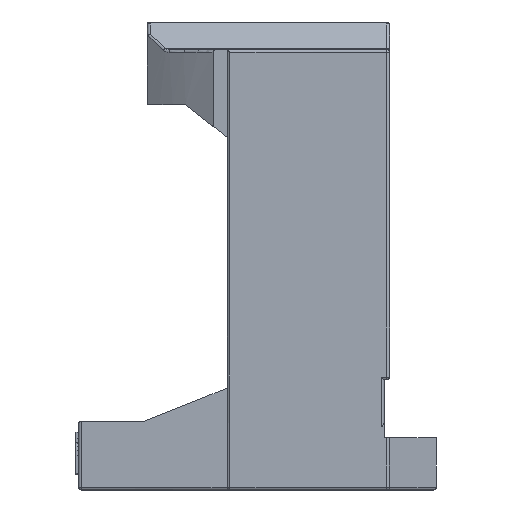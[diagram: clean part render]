
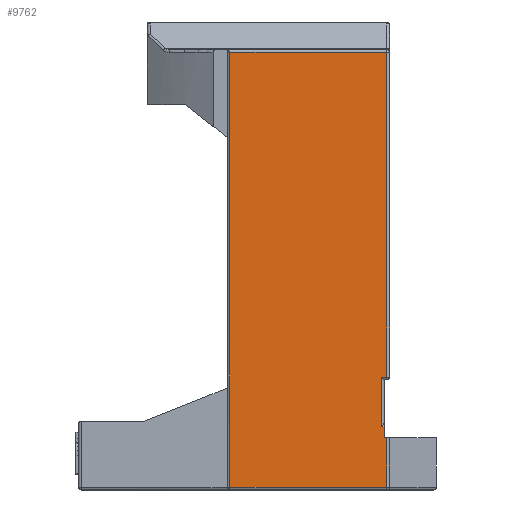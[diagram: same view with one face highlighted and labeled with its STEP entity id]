
A CAD part, left-side view. The second image highlights one B-rep face of the part: STEP entity #9762.
In plain terms, the highlighted planar face has unit normal (-1, 0, 0).
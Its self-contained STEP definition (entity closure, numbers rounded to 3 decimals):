
#2306=DIRECTION('',(0.,-1.,0.));
#2307=VECTOR('',#2306,57.);
#2308=CARTESIAN_POINT('',(-75.,10.,159.));
#2309=LINE('',#2308,#2307);
#2323=DIRECTION('',(0.,0.,1.));
#2324=VECTOR('',#2323,158.);
#2325=CARTESIAN_POINT('',(-75.,10.,1.));
#2326=LINE('',#2325,#2324);
#2386=DIRECTION('',(0.,1.,0.));
#2387=VECTOR('',#2386,57.);
#2388=CARTESIAN_POINT('',(-75.,-47.,1.));
#2389=LINE('',#2388,#2387);
#3200=DIRECTION('',(0.,0.,-1.));
#3201=VECTOR('',#3200,18.);
#3202=CARTESIAN_POINT('',(-75.,-47.,19.));
#3203=LINE('',#3202,#3201);
#3204=DIRECTION('',(0.,1.,0.));
#3205=VECTOR('',#3204,1.);
#3206=CARTESIAN_POINT('',(-75.,-47.,19.));
#3207=LINE('',#3206,#3205);
#3208=DIRECTION('',(0.,0.,1.));
#3209=VECTOR('',#3208,4.);
#3210=CARTESIAN_POINT('',(-75.,-46.,19.));
#3211=LINE('',#3210,#3209);
#3212=DIRECTION('',(0.,0.,-1.));
#3213=VECTOR('',#3212,118.);
#3214=CARTESIAN_POINT('',(-75.,-47.,159.));
#3215=LINE('',#3214,#3213);
#3235=DIRECTION('',(0.,1.,0.));
#3236=VECTOR('',#3235,2.);
#3237=CARTESIAN_POINT('',(-75.,-47.,41.));
#3238=LINE('',#3237,#3236);
#3247=DIRECTION('',(0.,0.,-1.));
#3248=VECTOR('',#3247,18.);
#3249=CARTESIAN_POINT('',(-75.,-45.,41.));
#3250=LINE('',#3249,#3248);
#3265=DIRECTION('',(0.,-1.,0.));
#3266=VECTOR('',#3265,1.);
#3267=CARTESIAN_POINT('',(-75.,-45.,23.));
#3268=LINE('',#3267,#3266);
#4648=CARTESIAN_POINT('',(-75.,-47.,159.));
#4649=CARTESIAN_POINT('',(-75.,-47.,41.));
#4650=VERTEX_POINT('',#4648);
#4651=VERTEX_POINT('',#4649);
#4652=CARTESIAN_POINT('',(-75.,10.,159.));
#4653=VERTEX_POINT('',#4652);
#4654=CARTESIAN_POINT('',(-75.,10.,1.));
#4655=VERTEX_POINT('',#4654);
#4656=CARTESIAN_POINT('',(-75.,-47.,1.));
#4657=VERTEX_POINT('',#4656);
#4658=CARTESIAN_POINT('',(-75.,-45.,41.));
#4659=CARTESIAN_POINT('',(-75.,-45.,23.));
#4660=VERTEX_POINT('',#4658);
#4661=VERTEX_POINT('',#4659);
#5535=CARTESIAN_POINT('',(-75.,-47.,19.));
#5536=CARTESIAN_POINT('',(-75.,-46.,19.));
#5537=VERTEX_POINT('',#5535);
#5538=VERTEX_POINT('',#5536);
#5539=CARTESIAN_POINT('',(-75.,-46.,23.));
#5540=VERTEX_POINT('',#5539);
#9741=CARTESIAN_POINT('',(-75.,72.5,25.));
#9742=DIRECTION('',(1.,0.,0.));
#9743=DIRECTION('',(0.,-1.,0.));
#9744=AXIS2_PLACEMENT_3D('',#9741,#9742,#9743);
#9745=PLANE('',#9744);
#9746=ORIENTED_EDGE('',*,*,#8654,.F.);
#9747=ORIENTED_EDGE('',*,*,#9736,.T.);
#9748=ORIENTED_EDGE('',*,*,#8543,.T.);
#9749=ORIENTED_EDGE('',*,*,#8479,.T.);
#9750=ORIENTED_EDGE('',*,*,#8465,.T.);
#9752=ORIENTED_EDGE('',*,*,#9751,.T.);
#9754=ORIENTED_EDGE('',*,*,#9753,.T.);
#9756=ORIENTED_EDGE('',*,*,#9755,.T.);
#9758=ORIENTED_EDGE('',*,*,#9757,.T.);
#9759=ORIENTED_EDGE('',*,*,#7721,.F.);
#9760=EDGE_LOOP('',(#9746,#9747,#9748,#9749,#9750,#9752,#9754,#9756,#9758,
#9759));
#9761=FACE_OUTER_BOUND('',#9760,.F.);
#7721=EDGE_CURVE('',#5538,#5540,#3211,.T.);
#8465=EDGE_CURVE('',#4653,#4650,#2309,.T.);
#8479=EDGE_CURVE('',#4655,#4653,#2326,.T.);
#8543=EDGE_CURVE('',#4657,#4655,#2389,.T.);
#8654=EDGE_CURVE('',#5537,#5538,#3207,.T.);
#9736=EDGE_CURVE('',#5537,#4657,#3203,.T.);
#9751=EDGE_CURVE('',#4650,#4651,#3215,.T.);
#9753=EDGE_CURVE('',#4651,#4660,#3238,.T.);
#9755=EDGE_CURVE('',#4660,#4661,#3250,.T.);
#9757=EDGE_CURVE('',#4661,#5540,#3268,.T.);
#9762=ADVANCED_FACE('',(#9761),#9745,.F.);
